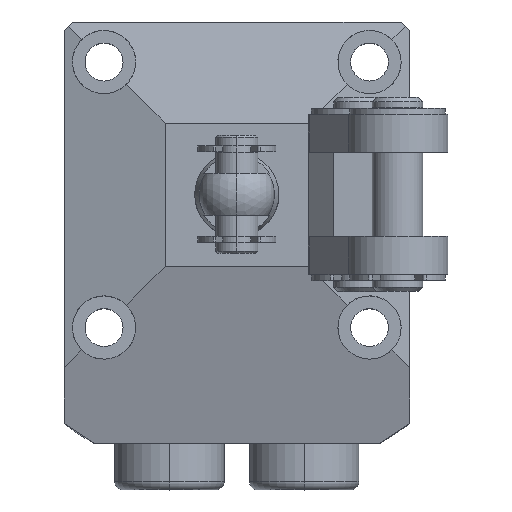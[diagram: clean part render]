
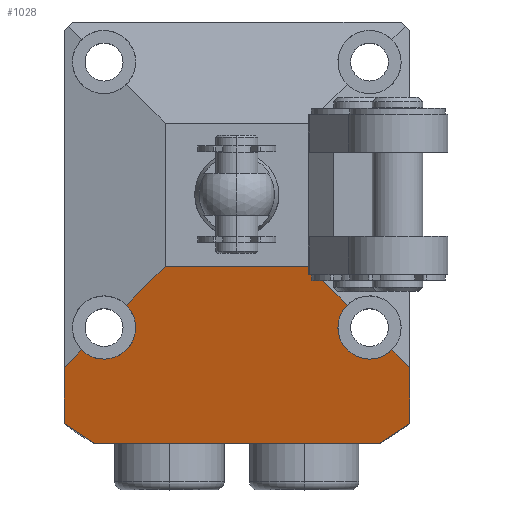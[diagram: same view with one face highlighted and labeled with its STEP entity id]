
A CAD part, top view. The second image highlights one B-rep face of the part: STEP entity #1028.
In plain terms, the highlighted planar face has unit normal (0, -0.259, 0.966).
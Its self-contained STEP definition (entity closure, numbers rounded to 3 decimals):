
#68 = CARTESIAN_POINT ( 'NONE',  ( 18.402, -18.402, 49.847 ) ) ;
#100 = LINE ( 'NONE', #1192, #6274 ) ;
#199 = CARTESIAN_POINT ( 'NONE',  ( 12., -15.75, 50.557 ) ) ;
#249 = DIRECTION ( 'NONE',  ( 0., -0.966, -0.259 ) ) ;
#307 = ORIENTED_EDGE ( 'NONE', *, *, #3539, .T. ) ;
#348 = CARTESIAN_POINT ( 'NONE',  ( -18.402, -18.402, 49.847 ) ) ;
#395 = VECTOR ( 'NONE', #249, 1000. ) ;
#461 = DIRECTION ( 'NONE',  ( 0., 0.966, 0.259 ) ) ;
#683 = CARTESIAN_POINT ( 'NONE',  ( -15.75, -19.5, 49.553 ) ) ;
#794 =( BOUNDED_CURVE ( )  B_SPLINE_CURVE ( 3, ( #199, #5140, #3911, #2785 ),
 .UNSPECIFIED., .F., .T. ) 
 B_SPLINE_CURVE_WITH_KNOTS ( ( 4, 4 ),
 ( 4.712, 5.498 ),
 .UNSPECIFIED. ) 
 CURVE ( )  GEOMETRIC_REPRESENTATION_ITEM ( )  RATIONAL_B_SPLINE_CURVE ( ( 1., 0.949, 0.949, 1. ) ) 
 REPRESENTATION_ITEM ( '' )  );
#812 = LINE ( 'NONE', #6392, #6985 ) ;
#959 = CARTESIAN_POINT ( 'NONE',  ( -16.904, -29.5, 46.873 ) ) ;
#1007 = EDGE_CURVE ( 'NONE', #5959, #3592, #794, .T. ) ;
#1028 = ADVANCED_FACE ( 'NONE', ( #2003 ), #4857, .F. ) ;
#1192 = CARTESIAN_POINT ( 'NONE',  ( 5.498, 5.498, 56.251 ) ) ;
#1301 = ORIENTED_EDGE ( 'NONE', *, *, #1007, .T. ) ;
#1332 = ORIENTED_EDGE ( 'NONE', *, *, #3497, .T. ) ;
#1356 = VERTEX_POINT ( 'NONE', #3868 ) ;
#1380 = VERTEX_POINT ( 'NONE', #2326 ) ;
#1406 = CARTESIAN_POINT ( 'NONE',  ( 12., -15.75, 50.557 ) ) ;
#1446 = CARTESIAN_POINT ( 'NONE',  ( 18.402, -18.402, 49.847 ) ) ;
#1561 = DIRECTION ( 'NONE',  ( -1., 0., 0. ) ) ;
#1568 = CARTESIAN_POINT ( 'NONE',  ( 20.5, -27.125, 47.51 ) ) ;
#1602 = CARTESIAN_POINT ( 'NONE',  ( -8.5, -8.5, 52.5 ) ) ;
#1671 = ORIENTED_EDGE ( 'NONE', *, *, #3320, .T. ) ;
#1691 = CARTESIAN_POINT ( 'NONE',  ( -15.75, -19.5, 49.553 ) ) ;
#1803 = ORIENTED_EDGE ( 'NONE', *, *, #4512, .T. ) ;
#1821 = ORIENTED_EDGE ( 'NONE', *, *, #3152, .F. ) ;
#2003 = FACE_OUTER_BOUND ( 'NONE', #7591, .T. ) ;
#2037 = ORIENTED_EDGE ( 'NONE', *, *, #7089, .T. ) ;
#2048 = CARTESIAN_POINT ( 'NONE',  ( 12., -15.75, 50.557 ) ) ;
#2083 = ORIENTED_EDGE ( 'NONE', *, *, #2847, .T. ) ;
#2117 = CARTESIAN_POINT ( 'NONE',  ( -11.825, -19.5, 49.553 ) ) ;
#2173 = CARTESIAN_POINT ( 'NONE',  ( 16.904, -29.5, 46.873 ) ) ;
#2174 = VERTEX_POINT ( 'NONE', #683 ) ;
#2218 = LINE ( 'NONE', #6233, #6792 ) ;
#2274 = CARTESIAN_POINT ( 'NONE',  ( 16.904, -29.5, 46.873 ) ) ;
#2289 = CARTESIAN_POINT ( 'NONE',  ( -17.689, -19.114, 49.656 ) ) ;
#2326 = CARTESIAN_POINT ( 'NONE',  ( -16.904, -29.5, 46.873 ) ) ;
#2339 = CARTESIAN_POINT ( 'NONE',  ( 5.498, 5.498, 56.251 ) ) ;
#2340 = VERTEX_POINT ( 'NONE', #1602 ) ;
#2348 = EDGE_CURVE ( 'NONE', #3922, #2340, #812, .T. ) ;
#2613 =( BOUNDED_CURVE ( )  B_SPLINE_CURVE ( 3, ( #1691, #5261, #2289, #6475 ),
 .UNSPECIFIED., .F., .F. ) 
 B_SPLINE_CURVE_WITH_KNOTS ( ( 4, 4 ),
 ( 3.142, 3.927 ),
 .UNSPECIFIED. ) 
 CURVE ( )  GEOMETRIC_REPRESENTATION_ITEM ( )  RATIONAL_B_SPLINE_CURVE ( ( 1., 0.949, 0.949, 1. ) ) 
 REPRESENTATION_ITEM ( '' )  );
#2759 = CARTESIAN_POINT ( 'NONE',  ( -20.5, -27.125, 47.51 ) ) ;
#2785 = CARTESIAN_POINT ( 'NONE',  ( 13.098, -13.098, 51.268 ) ) ;
#2847 = EDGE_CURVE ( 'NONE', #1356, #4435, #2218, .T. ) ;
#2881 = CARTESIAN_POINT ( 'NONE',  ( 20.501, -29.5, 46.873 ) ) ;
#2924 = VERTEX_POINT ( 'NONE', #5076 ) ;
#3152 = EDGE_CURVE ( 'NONE', #5518, #1380, #6513, .T. ) ;
#3201 = ORIENTED_EDGE ( 'NONE', *, *, #3357, .F. ) ;
#3284 = CARTESIAN_POINT ( 'NONE',  ( -10.323, -15.874, 50.524 ) ) ;
#3320 = EDGE_CURVE ( 'NONE', #5863, #2174, #6598, .T. ) ;
#3333 = VECTOR ( 'NONE', #1561, 1000. ) ;
#3357 = EDGE_CURVE ( 'NONE', #1380, #2924, #4019, .T. ) ;
#3497 = EDGE_CURVE ( 'NONE', #2174, #4370, #2613, .T. ) ;
#3539 = EDGE_CURVE ( 'NONE', #4370, #7202, #6687, .T. ) ;
#3557 = LINE ( 'NONE', #5587, #395 ) ;
#3592 = VERTEX_POINT ( 'NONE', #6522 ) ;
#3822 = EDGE_CURVE ( 'NONE', #7478, #5959, #6549, .T. ) ;
#3868 = CARTESIAN_POINT ( 'NONE',  ( 20.5, -27.125, 47.51 ) ) ;
#3911 = CARTESIAN_POINT ( 'NONE',  ( 12.386, -13.811, 51.077 ) ) ;
#3922 = VERTEX_POINT ( 'NONE', #3937 ) ;
#3937 = CARTESIAN_POINT ( 'NONE',  ( 8.5, -8.5, 52.5 ) ) ;
#4019 =( BOUNDED_CURVE ( )  B_SPLINE_CURVE ( 3, ( #959, #4515, #6349, #2759 ),
 .UNSPECIFIED., .F., .F. ) 
 B_SPLINE_CURVE_WITH_KNOTS ( ( 4, 4 ),
 ( 0.52, 0.647 ),
 .UNSPECIFIED. ) 
 CURVE ( )  GEOMETRIC_REPRESENTATION_ITEM ( )  RATIONAL_B_SPLINE_CURVE ( ( 1., 0.999, 0.999, 1. ) ) 
 REPRESENTATION_ITEM ( '' )  );
#4083 = DIRECTION ( 'NONE',  ( -0.695, 0.695, 0.186 ) ) ;
#4165 = VECTOR ( 'NONE', #6092, 1000. ) ;
#4168 = CARTESIAN_POINT ( 'NONE',  ( 20.501, -8.5, 52.5 ) ) ;
#4370 = VERTEX_POINT ( 'NONE', #348 ) ;
#4435 = VERTEX_POINT ( 'NONE', #6413 ) ;
#4512 = EDGE_CURVE ( 'NONE', #4435, #7478, #7124, .T. ) ;
#4515 = CARTESIAN_POINT ( 'NONE',  ( -18.152, -28.785, 47.065 ) ) ;
#4559 = EDGE_CURVE ( 'NONE', #3592, #3922, #7337, .T. ) ;
#4587 = ORIENTED_EDGE ( 'NONE', *, *, #7404, .T. ) ;
#4633 =( BOUNDED_CURVE ( )  B_SPLINE_CURVE ( 3, ( #1568, #5137, #5740, #2173 ),
 .UNSPECIFIED., .F., .F. ) 
 B_SPLINE_CURVE_WITH_KNOTS ( ( 4, 4 ),
 ( 5.636, 5.763 ),
 .UNSPECIFIED. ) 
 CURVE ( )  GEOMETRIC_REPRESENTATION_ITEM ( )  RATIONAL_B_SPLINE_CURVE ( ( 1., 0.999, 0.999, 1. ) ) 
 REPRESENTATION_ITEM ( '' )  );
#4857 = PLANE ( 'NONE',  #7336 ) ;
#5018 = CARTESIAN_POINT ( 'NONE',  ( 15.626, -21.177, 49.103 ) ) ;
#5052 = DIRECTION ( 'NONE',  ( 0., 0.966, 0.259 ) ) ;
#5056 = ORIENTED_EDGE ( 'NONE', *, *, #2348, .T. ) ;
#5065 = ORIENTED_EDGE ( 'NONE', *, *, #6044, .F. ) ;
#5076 = CARTESIAN_POINT ( 'NONE',  ( -20.5, -27.125, 47.51 ) ) ;
#5137 = CARTESIAN_POINT ( 'NONE',  ( 19.352, -27.992, 47.277 ) ) ;
#5140 = CARTESIAN_POINT ( 'NONE',  ( 12., -14.742, 50.827 ) ) ;
#5261 = CARTESIAN_POINT ( 'NONE',  ( -16.758, -19.5, 49.553 ) ) ;
#5518 = VERTEX_POINT ( 'NONE', #2274 ) ;
#5587 = CARTESIAN_POINT ( 'NONE',  ( -20.5, -8.5, 52.5 ) ) ;
#5615 = CARTESIAN_POINT ( 'NONE',  ( 12., -19.675, 49.506 ) ) ;
#5734 = VECTOR ( 'NONE', #4083, 1000. ) ;
#5740 = CARTESIAN_POINT ( 'NONE',  ( 18.152, -28.785, 47.065 ) ) ;
#5848 = CARTESIAN_POINT ( 'NONE',  ( 14.293, -14.293, 50.948 ) ) ;
#5862 = DIRECTION ( 'NONE',  ( 0., 0.259, -0.966 ) ) ;
#5863 = VERTEX_POINT ( 'NONE', #6182 ) ;
#5912 = DIRECTION ( 'NONE',  ( -0.695, -0.695, -0.186 ) ) ;
#5959 = VERTEX_POINT ( 'NONE', #1406 ) ;
#5965 = DIRECTION ( 'NONE',  ( -0.695, -0.695, -0.186 ) ) ;
#6044 = EDGE_CURVE ( 'NONE', #1356, #5518, #4633, .T. ) ;
#6092 = DIRECTION ( 'NONE',  ( -0.695, 0.695, 0.186 ) ) ;
#6110 = DIRECTION ( 'NONE',  ( -1., 0., 0. ) ) ;
#6182 = CARTESIAN_POINT ( 'NONE',  ( -13.098, -13.098, 51.268 ) ) ;
#6233 = CARTESIAN_POINT ( 'NONE',  ( 20.5, -8.5, 52.5 ) ) ;
#6244 = ORIENTED_EDGE ( 'NONE', *, *, #4559, .T. ) ;
#6274 = VECTOR ( 'NONE', #5965, 1000. ) ;
#6297 = CARTESIAN_POINT ( 'NONE',  ( -15.75, -19.5, 49.553 ) ) ;
#6349 = CARTESIAN_POINT ( 'NONE',  ( -19.352, -27.992, 47.277 ) ) ;
#6392 = CARTESIAN_POINT ( 'NONE',  ( 20.501, -8.5, 52.5 ) ) ;
#6413 = CARTESIAN_POINT ( 'NONE',  ( 20.5, -20.5, 49.285 ) ) ;
#6475 = CARTESIAN_POINT ( 'NONE',  ( -18.402, -18.402, 49.847 ) ) ;
#6513 = LINE ( 'NONE', #2881, #3333 ) ;
#6522 = CARTESIAN_POINT ( 'NONE',  ( 13.098, -13.098, 51.268 ) ) ;
#6546 = ORIENTED_EDGE ( 'NONE', *, *, #3822, .T. ) ;
#6549 =( BOUNDED_CURVE ( )  B_SPLINE_CURVE ( 3, ( #1446, #5018, #5615, #2048 ),
 .UNSPECIFIED., .F., .F. ) 
 B_SPLINE_CURVE_WITH_KNOTS ( ( 4, 4 ),
 ( 2.356, 4.712 ),
 .UNSPECIFIED. ) 
 CURVE ( )  GEOMETRIC_REPRESENTATION_ITEM ( )  RATIONAL_B_SPLINE_CURVE ( ( 1., 0.588, 0.588, 1. ) ) 
 REPRESENTATION_ITEM ( '' )  );
#6598 =( BOUNDED_CURVE ( )  B_SPLINE_CURVE ( 3, ( #7470, #3284, #2117, #6297 ),
 .UNSPECIFIED., .F., .F. ) 
 B_SPLINE_CURVE_WITH_KNOTS ( ( 4, 4 ),
 ( 0.785, 3.142 ),
 .UNSPECIFIED. ) 
 CURVE ( )  GEOMETRIC_REPRESENTATION_ITEM ( )  RATIONAL_B_SPLINE_CURVE ( ( 1., 0.588, 0.588, 1. ) ) 
 REPRESENTATION_ITEM ( '' )  );
#6687 = LINE ( 'NONE', #2339, #6873 ) ;
#6792 = VECTOR ( 'NONE', #5052, 1000. ) ;
#6873 = VECTOR ( 'NONE', #5912, 1000. ) ;
#6985 = VECTOR ( 'NONE', #6110, 1000. ) ;
#7089 = EDGE_CURVE ( 'NONE', #7202, #2924, #3557, .T. ) ;
#7124 = LINE ( 'NONE', #5848, #5734 ) ;
#7202 = VERTEX_POINT ( 'NONE', #7512 ) ;
#7336 = AXIS2_PLACEMENT_3D ( 'NONE', #4168, #5862, #461 ) ;
#7337 = LINE ( 'NONE', #7681, #4165 ) ;
#7404 = EDGE_CURVE ( 'NONE', #2340, #5863, #100, .T. ) ;
#7470 = CARTESIAN_POINT ( 'NONE',  ( -13.098, -13.098, 51.268 ) ) ;
#7478 = VERTEX_POINT ( 'NONE', #68 ) ;
#7512 = CARTESIAN_POINT ( 'NONE',  ( -20.5, -20.5, 49.285 ) ) ;
#7591 = EDGE_LOOP ( 'NONE', ( #1821, #5065, #2083, #1803, #6546, #1301, #6244, #5056, #4587, #1671, #1332, #307, #2037, #3201 ) ) ;
#7681 = CARTESIAN_POINT ( 'NONE',  ( 14.293, -14.293, 50.948 ) ) ;
